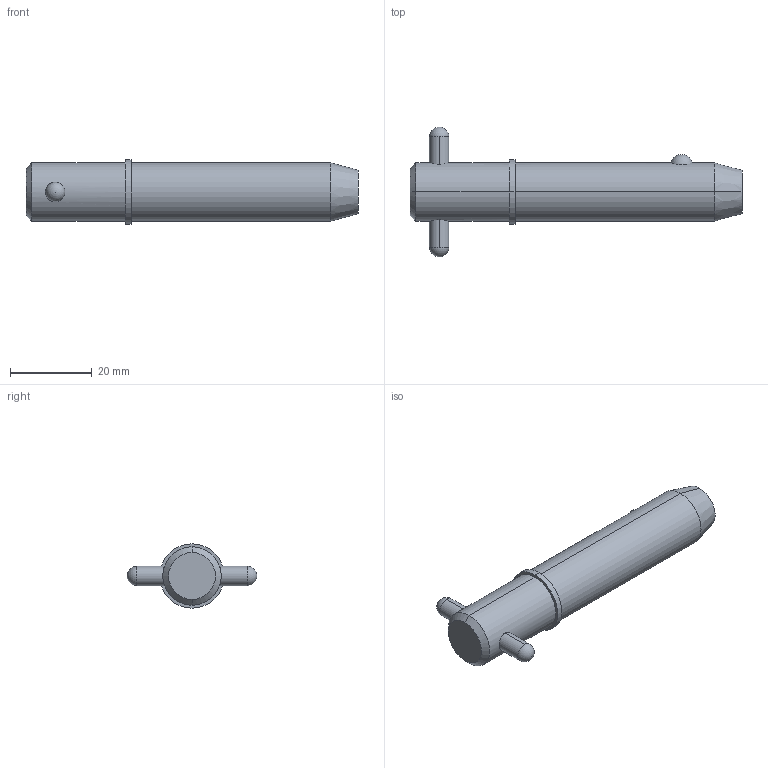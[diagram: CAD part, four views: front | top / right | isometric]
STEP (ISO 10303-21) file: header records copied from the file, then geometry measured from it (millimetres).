
FILE_DESCRIPTION (( 'STEP AP203' ), '1' );
FILE_NAME ('33018.W5615.step', '2024-11-19T17:16:24', ( '' ), ( '' ), 'SwSTEP 2.0', 'SolidWorks 2019', '' );
FILE_SCHEMA (( 'CONFIG_CONTROL_DESIGN' ));
Length unit declared in the file: millimetre
Products named in the file (3): Part1_33018.W5615; Part2_33018.W5615; 33018.W5615
Assembly tree (2 placements, depth 2):
  33018.W5615
    Part1_33018.W5615
    Part2_33018.W5615
Bounding box: 81.25 x 31.75 x 15.72 mm (x, y, z)
Volume: 13106.7 mm3; surface area: 4565.9 mm2
Topology: 2 solids, 2 shells, 22 faces, 47 edges, 30 vertices
Faces by surface type: cylinder 10, sphere 4, cone 4, plane 4
Entity records: 1033 total; most frequent: CARTESIAN_POINT 276, DIRECTION 110, ORIENTED_EDGE 82, AXIS2_PLACEMENT_3D 48, EDGE_CURVE 41, EDGE_LOOP 27, VERTEX_POINT 26, PERSON_AND_ORGANIZATION 26
